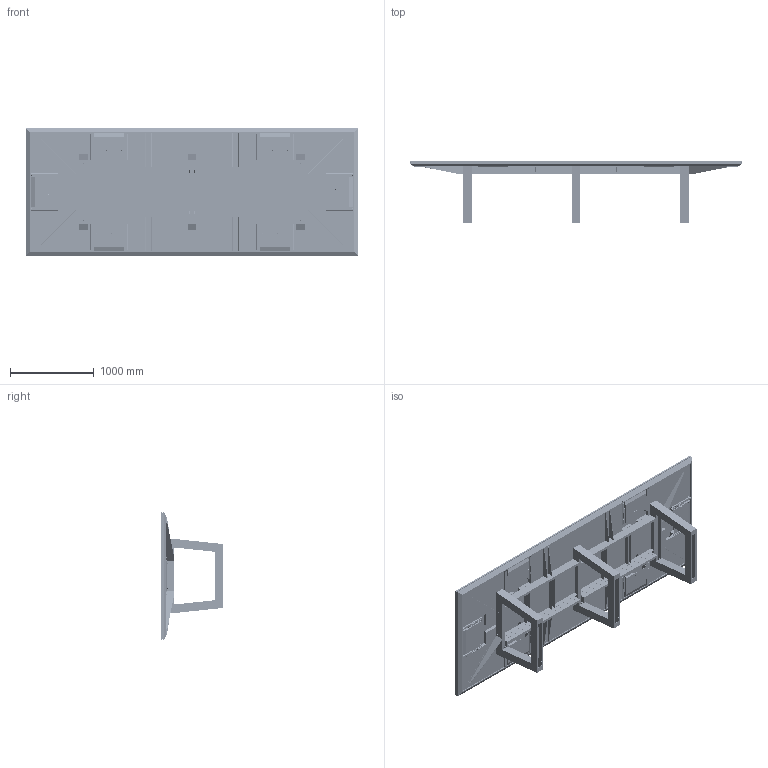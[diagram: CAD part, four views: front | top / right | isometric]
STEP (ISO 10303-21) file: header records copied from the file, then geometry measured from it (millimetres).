
FILE_DESCRIPTION(/* description */ ('','CAx-IF Rec.Pracs.---Representation and Presentation of Product Manufacturing Information (PMI)---4.0---2014-10-13'),/* implementation_level */ '2;1');
FILE_NAME(/* name */ 'TABLE_IMPRESS 4.stp',/* time_stamp */ '2024-12-07T16:04:11-05:00',/* author */ ('mbowman'),/* organization */ (''),/* preprocessor_version */ 'ST-DEVELOPER v19.2',/* originating_system */ 'Autodesk Inventor 2023',/* authorisation */ '');
FILE_SCHEMA (('FEATURE_BASED_PROCESS_PLANNING','AP242_MANAGED_MODEL_BASED_3D_ENGINEERING_MIM_LF { 1 0 10303 442 1 1 4 }'));
Products named in the file (62): IMPRESS^TABLE 4_2 PC TOP PWR DRAWERS-SOLID ASSEMBLY; IMPRESS^TABLE 4_2 PC TOP PWR DRAWERS-TOP PARTS SOLID; IMPRESS^16-SHORT-ASHLEY210-ASSEMBLY; R755-305-RIGHT; R755-305-LEFT; IMPRESS^16-SHORT-ASHLEY210-ASSEMBLY_1; R755-305-RIGHT_1; R755-305-LEFT_1; IMPRESS^16-SHORT-ASHLEY210-ASSEMBLY_2; R755-305-RIGHT_2; R755-305-LEFT_2; IMPRESS^16-SHORT-ASHLEY210-ASSEMBLY_3; R755-305-RIGHT_3; R755-305-LEFT_3; IMPRESS^16-SHORT-ASHLEY210-ASSEMBLY_4; R755-305-RIGHT_4; R755-305-LEFT_4; IMPRESS^16-SHORT-ASHLEY210-ASSEMBLY_5; VGA 35 HDMI; BLANK; 1AA12-009 MA1; VGA; 3AA06-001; SDH15S_Without Mounting Flange and Solder Cups; DGB9F-MA1_GENDER CHANGER; 3AA05-002; 3AB14-020___; 1AM07-031___; 1AJ01-018___; 1AJ06-031___; 1AH01-003___; ASHLEY DUO-2PWR 2 USB; 16-P&D TRAY 04 ASSY-SHORT-ASHLEY210-01.31.24; 16-P&D TRAY 04A-SHORT-ASHLEY210-01.31.24; 16-P&D TRAY 04B-SHORT-ASHLEY210-01.31.24; 16-MTG RAIL 01-ASHLEY210-01.31.24; IMPRESS^16-ASHLEY 210-POWER DRAWER-WOOD PARTS; R755-305-RIGHT_5; R755-305-RAIL; R755-305-SLIDE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
Assembly tree (126 placements, depth 5):
  IMPRESS^TABLE 4_2 PC TOP PWR DRAWERS-SOLID ASSEMBLY
    IMPRESS^TABLE 4_2 PC TOP PWR DRAWERS-TOP PARTS SOLID
    IMPRESS^16-SHORT-ASHLEY210-ASSEMBLY
      VGA 35 HDMI
        BLANK
        1AA12-009 MA1
        VGA
          SDH15S_Without Mounting Flange and Solder Cups  x2
          3AA06-001  x2
          3AA05-002  x2
          DGB9F-MA1_GENDER CHANGER
        3AB14-020___
          1AM07-031___
          1AJ06-031___  x2
          1AJ01-018___
          1AH01-003___
      ASHLEY DUO-2PWR 2 USB
      16-P&D TRAY 04 ASSY-SHORT-ASHLEY210-01.31.24
        16-P&D TRAY 04A-SHORT-ASHLEY210-01.31.24
        16-P&D TRAY 04B-SHORT-ASHLEY210-01.31.24
      16-MTG RAIL 01-ASHLEY210-01.31.24  x2
      IMPRESS^16-ASHLEY 210-POWER DRAWER-WOOD PARTS
      R755-305-RIGHT
        R755-305-RAIL
        R755-305-SLIDE
      R755-305-LEFT
        R755-305-RAIL_LEFT
        R755-305-SLIDE_LEFT
    IMPRESS^16-SHORT-ASHLEY210-ASSEMBLY_1
      VGA 35 HDMI
        BLANK
        1AA12-009 MA1
        VGA
          SDH15S_Without Mounting Flange and Solder Cups  x2
          3AA06-001  x2
          3AA05-002  x2
          DGB9F-MA1_GENDER CHANGER
        3AB14-020___
          1AM07-031___
          1AJ06-031___  x2
          1AJ01-018___
          1AH01-003___
      ASHLEY DUO-2PWR 2 USB
      16-P&D TRAY 04 ASSY-SHORT-ASHLEY210-01.31.24
        16-P&D TRAY 04A-SHORT-ASHLEY210-01.31.24
        16-P&D TRAY 04B-SHORT-ASHLEY210-01.31.24
      16-MTG RAIL 01-ASHLEY210-01.31.24  x2
      IMPRESS^16-ASHLEY 210-POWER DRAWER-WOOD PARTS
      R755-305-RIGHT_1
        R755-305-RAIL
        R755-305-SLIDE
      R755-305-LEFT_1
        R755-305-RAIL_LEFT
        R755-305-SLIDE_LEFT
    IMPRESS^16-SHORT-ASHLEY210-ASSEMBLY_2
      VGA 35 HDMI
        BLANK
        1AA12-009 MA1
        VGA
          SDH15S_Without Mounting Flange and Solder Cups  x2
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Bounding box: 3962.4 x 743.04 x 1524 mm (x, y, z)
Volume: 364356598.1 mm3; surface area: 40470268.5 mm2
Topology: 280 solids, 280 shells, 17958 faces, 46902 edges, 30450 vertices
Faces by surface type: plane 12400, cylinder 3176, bspline 1440, cone 576, torus 306, sphere 60
Full cylindrical faces by diameter (mm): 0.991 x180, 2.159 x48, 2.197 x12, 2.261 x96, 2.3 x12, 2.743 x12, 2.794 x24, 3.048 x12, 3.124 x12, 3.175 x12, 3.2 x36, 3.556 x6, 4.762 x48, 4.826 x24, 5.556 x32, 6 x6, 6.35 x312, 6.5 x6, 7.144 x12, 7.5 x6, 7.874 x12, 7.938 x54, 8 x6, 8.3 x6, 8.636 x24, 13.5 x6, 14.859 x6, 38.1 x6
Entity records: 117942 total; most frequent: CARTESIAN_POINT 31320, ORIENTED_EDGE 16456, DIRECTION 16018, EDGE_CURVE 8228, LINE 6632, VECTOR 6632, VERTEX_POINT 5379, AXIS2_PLACEMENT_3D 4693
